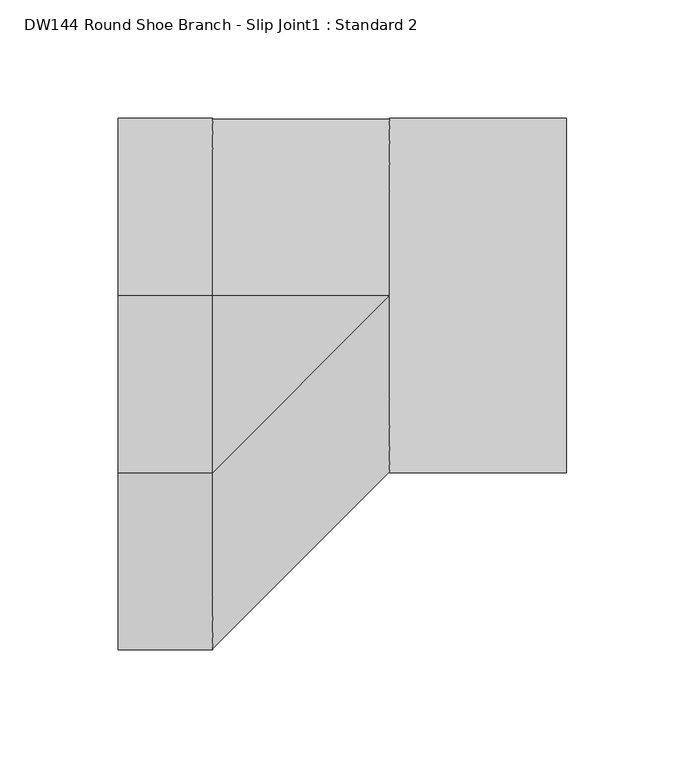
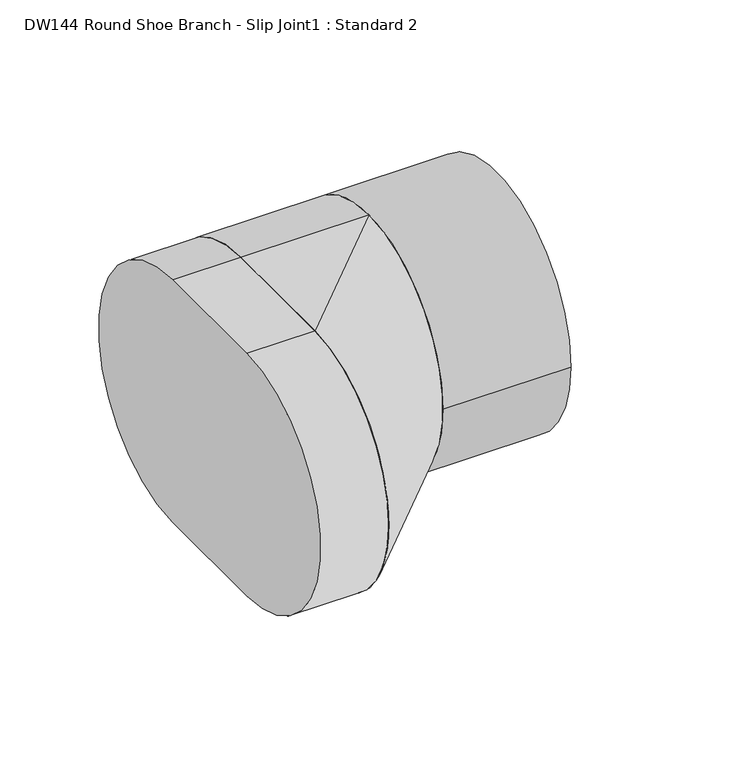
"""IFC4 building model written with IfcOpenShell, lengths in millimetres: duct fitting geometry, DW144 Round Shoe Branch - Slip Joint1 : Standard 2."""

from ifc_helpers import new_model, si_unit, point, frame, frame_2d, origin, origin_2d, place, context, project, spatial, polyline, circle_curve, trimmed, segment, composite_curve, outline, extrude, source, transform, mapped, element, save
from ifc_brep_helpers import plane_surface, cylinder_surface, extruded_surface, advanced_brep


def dw144_round_shoe_branch_slip_joint1_standard_2_ce91aa06(model_context):
    return source(origin(), model_context, "Body", "SolidModel", [
        extrude(outline(composite_curve([segment(trimmed(circle_curve(origin_2d(), 75.0), [point((-75.0, 0.0))], [point((75.0, 0.0))], False, "CARTESIAN"), True, "CONTINUOUS"), segment(trimmed(circle_curve(origin_2d(), 75.0), [point((75.0, 0.0))], [point((-75.0, 0.0))], False, "CARTESIAN"), True, "CONTINUOUS")], self_intersect=False)), frame((75.0, 0.0, 0.0), z_axis=(1.0, 0.0, 0.0), x_axis=(0.0, 1.0, 0.0)), (0.0, 0.0, 1.0), 75.0),
        advanced_brep(
        [(75.0, 0.0, -75.0), (75.0, 0.0, 75.0), (0.0, 0.0, -75.0), (0.0, -75.0, -75.0), (0.0, -75.0, 75.0), (0.0, 0.0, 75.0)],
        [
            (0, 1, circle_curve(frame((75.0, 0.0, 0.0), z_axis=(1.0, 0.0, 0.0), x_axis=(0.0, 1.0, 0.0)), 75.0)),
            (1, 0, circle_curve(frame((75.0, 0.0, 0.0), z_axis=(1.0, 0.0, 0.0), x_axis=(0.0, 1.0, 0.0)), 75.0)),
            (2, 3),
            (3, 4, circle_curve(frame((0.0, -75.0, 0.0), z_axis=(-1.0, 0.0, 0.0), x_axis=(0.0, 1.0, 0.0)), 75.0)),
            (4, 5),
            (5, 2, circle_curve(frame((0.0, 0.0, 0.0), z_axis=(-1.0, 0.0, 0.0), x_axis=(0.0, 1.0, 0.0)), 75.0)),
            (5, 1),
            (0, 2),
            (4, 1),
            (3, 0),
        ],
        [
            plane_surface(frame((75.0, 0.0, 0.0), z_axis=(1.0, 0.0, 0.0), x_axis=(0.0, 1.0, 0.0))),
            plane_surface(frame((0.0, -37.5, 0.0), z_axis=(-1.0, 0.0, 0.0), x_axis=(0.0, 1.0, 0.0))),
            cylinder_surface(frame((0.0, 0.0, 0.0), z_axis=(1.0, 0.0, 0.0), x_axis=(0.0, 1.0, 0.0)), 75.0),
            plane_surface(frame((0.0, -37.5, 75.0), z_axis=(0.0, 0.0, 1.0), x_axis=(0.0, -1.0, 0.0))),
            extruded_surface(trimmed(circle_curve(frame((0.0, -75.0, 0.0), z_axis=(1.0, 0.0, 0.0), x_axis=(0.0, 1.0, 0.0)), 75.0), [point((0.0, -75.0, 75.0))], [point((0.0, -75.0, -75.0))], True, "CARTESIAN"), (75.0, 75.0, 0.0), 106.06601717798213),
            plane_surface(frame((0.0, -37.5, -75.0), z_axis=(0.0, 0.0, -1.0), x_axis=(0.0, 1.0, 0.0))),
        ],
        [
            (0, [[1, 2]]),
            (1, [[3, 4, 5, 6]]),
            (2, [[-6, 7, -1, 8]]),
            (3, [[-5, 9, -7]]),
            (4, [[-4, 10, -2, -9]]),
            (5, [[-3, -8, -10]]),
        ],
    ),
        extrude(outline(composite_curve([segment(polyline([(0.0, -75.0), (-75.0, -75.0)]), True, "CONTINUOUS"), segment(trimmed(circle_curve(frame_2d((-75.0, 0.0)), 75.0), [point((-75.0, -75.0))], [point((-75.0, 75.0))], False, "CARTESIAN"), True, "CONTINUOUS"), segment(polyline([(-75.0, 75.0), (0.0, 75.0)]), True, "CONTINUOUS"), segment(trimmed(circle_curve(origin_2d(), 75.0), [point((0.0, 75.0))], [point((0.0, -75.0))], False, "CARTESIAN"), True, "CONTINUOUS")], self_intersect=False)), frame((-39.9522172, 0.0, 0.0), z_axis=(1.0, 0.0, 0.0), x_axis=(0.0, 1.0, 0.0)), (0.0, 0.0, 1.0), 39.9522172),
    ])


if __name__ == "__main__":
    model = new_model("IFC4")
    model_context = context("Model", 3, world=origin())
    ifc_project = project(units=[si_unit("LENGTHUNIT", "METRE", prefix="MILLI")], contexts=[model_context])
    site = spatial("IfcSite", under=ifc_project)
    building = spatial("IfcBuilding", under=site)
    placement = place(None, origin())
    dw144_round_shoe_branch_slip_joint1_standard_2_shape = dw144_round_shoe_branch_slip_joint1_standard_2_ce91aa06(model_context)
    element("IfcDuctFitting", 1, ObjectType="DW144 Round Shoe Branch - Slip Joint1 : Standard 2", at=placement, inside=building, context=model_context, shape_type="MappedRepresentation", body=[
        mapped(dw144_round_shoe_branch_slip_joint1_standard_2_shape, transform((0.0, 0.0, 0.0), x_axis=(1.0, 0.0, 0.0), y_axis=(0.0, 1.0, 0.0), z_axis=(0.0, 0.0, 1.0))),
    ])
    save(model, "model.ifc")
